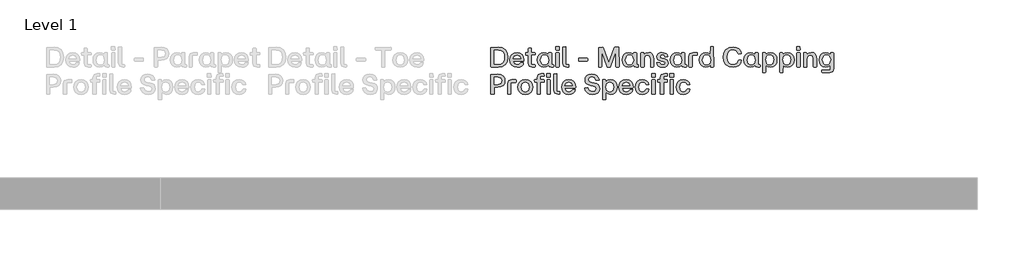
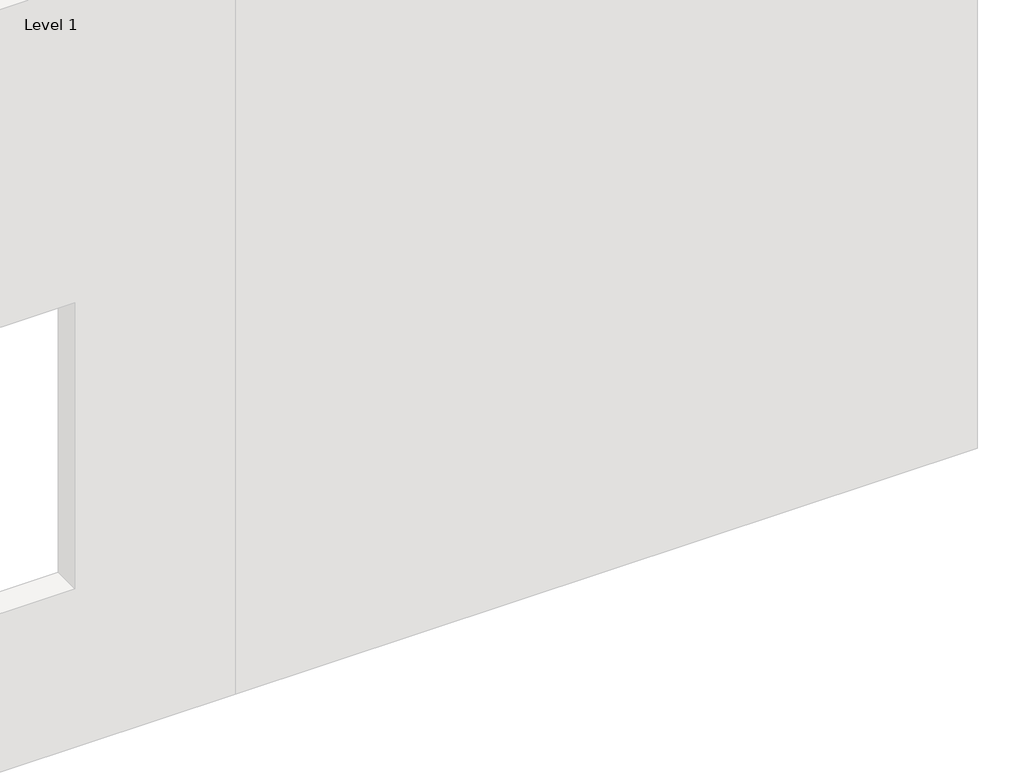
# One storey, part 47 of 64: 1 proxy.
"""IFC4 building model written with IfcOpenShell, lengths in millimetres."""

import ifcopenshell
import ifcopenshell.guid

model = None  # the IFC model being written
_history = None  # IfcOwnerHistory: only IFC2X3 demands one
_inside = {}  # id of a spatial element -> (the spatial element, [elements in it])
_under = {}  # id of a project, library or spatial element -> (it, [spatial elements below it])
_declared = {}  # id of a project -> (the project, [libraries it declares])
_typed = {}  # id of a type object -> (the type object, [elements of that type])
_made_of = {}  # id of a material, layer set ... -> (it, [elements and type objects made of it])


def new_model(schema):
    """Start an empty IFC model of exactly this schema.

    Asked for "IFC4X3", IfcOpenShell would pick the latest addendum, in which some entities
    have other attributes; the version numbers below select the first issue.
    IFC2X3 requires an IfcOwnerHistory on every rooted entity: one is made here for all.
    """
    global model, _history
    if schema == "IFC4X3":
        model = ifcopenshell.file(schema_version=(4, 3, 0, 0))
    else:
        model = ifcopenshell.file(schema=schema)
    _inside.clear()
    _under.clear()
    _declared.clear()
    _typed.clear()
    _made_of.clear()
    _history = None
    if model.schema == "IFC2X3":
        org = make("IfcOrganization", Name="unknown")
        user = make(
            "IfcPersonAndOrganization",
            ThePerson=make("IfcPerson", FamilyName="unknown"),
            TheOrganization=org,
        )
        app = make(
            "IfcApplication",
            ApplicationDeveloper=org,
            Version="unknown",
            ApplicationFullName="unknown",
            ApplicationIdentifier="unknown",
        )
        _history = make(
            "IfcOwnerHistory",
            OwningUser=user,
            OwningApplication=app,
            ChangeAction="ADDED",
            CreationDate=0,
        )
    return model


def make(cls, **values):
    """One entity of the class cls with the attributes given. An attribute that is None is left unset."""
    return model.create_entity(
        cls, **{name: value for name, value in values.items() if value is not None}
    )


def rooted(cls, **values):
    """An entity with a GlobalId (a new one), such as an element, a storey or a relation."""
    return make(cls, GlobalId=ifcopenshell.guid.new(), OwnerHistory=_history, **values)


def si_unit(unit_type, name, prefix=None):
    """IfcSIUnit, for example si_unit("LENGTHUNIT", "METRE", prefix="MILLI")."""
    return make("IfcSIUnit", UnitType=unit_type, Prefix=prefix, Name=name)


def assignment(units):
    """IfcUnitAssignment: the units of a project."""
    return None if units is None else make("IfcUnitAssignment", Units=units)


def point(xyz):
    """IfcCartesianPoint."""
    return None if xyz is None else make("IfcCartesianPoint", Coordinates=xyz)


def direction(xyz):
    """IfcDirection."""
    return None if xyz is None else make("IfcDirection", DirectionRatios=xyz)


def frame(location, z_axis=None, x_axis=None):
    """IfcAxis2Placement3D, a coordinate frame: its origin and axes. An axis left out is left unset."""
    return make(
        "IfcAxis2Placement3D",
        Location=point(location),
        Axis=direction(z_axis),
        RefDirection=direction(x_axis),
    )


def origin():
    """The frame at (0, 0, 0) with its axes left unset."""
    return frame((0.0, 0.0, 0.0))


def origin_with_axes():
    """The frame at (0, 0, 0) with the z axis (0, 0, 1) and the x axis (1, 0, 0) written out."""
    return frame((0.0, 0.0, 0.0), z_axis=(0.0, 0.0, 1.0), x_axis=(1.0, 0.0, 0.0))


def place(relative_to, where):
    """IfcLocalPlacement: puts the frame where relative to a parent placement (None: the world)."""
    return make(
        "IfcLocalPlacement", PlacementRelTo=relative_to, RelativePlacement=where
    )


def context(
    kind, dimensions, precision=None, world=None, true_north=None, identifier=None
):
    """IfcGeometricRepresentationContext, for example the 3D "Model" context."""
    return make(
        "IfcGeometricRepresentationContext",
        ContextIdentifier=identifier,
        ContextType=kind,
        CoordinateSpaceDimension=dimensions,
        Precision=precision,
        WorldCoordinateSystem=world,
        TrueNorth=true_north,
    )


def project(units=None, contexts=None):
    """IfcProject with its units and contexts."""
    return rooted(
        "IfcProject",
        Name="project",
        RepresentationContexts=contexts,
        UnitsInContext=assignment(units),
    )


def spatial(cls, under=None, at=None, **own):
    """A site, building, storey or space (cls), placed at a placement, below another one or the project."""
    s = rooted(cls, ObjectPlacement=at, **own)
    if under is not None:
        _under.setdefault(under.id(), (under, []))[1].append(s)
    return s


def polyline(points):
    """IfcPolyline through the points."""
    return make("IfcPolyline", Points=[point(p) for p in points])


def outline(outer, holes=None, kind="AREA"):
    """IfcArbitraryClosedProfileDef: a profile drawn as a closed curve; with holes, ...WithVoids."""
    if holes is None:
        return make("IfcArbitraryClosedProfileDef", ProfileType=kind, OuterCurve=outer)
    return make(
        "IfcArbitraryProfileDefWithVoids",
        ProfileType=kind,
        OuterCurve=outer,
        InnerCurves=holes,
    )


def extrude(swept, where, along, depth):
    """IfcExtrudedAreaSolid: the profile swept, set in the frame where, extruded along a direction by depth."""
    return make(
        "IfcExtrudedAreaSolid",
        SweptArea=swept,
        Position=where,
        ExtrudedDirection=direction(along),
        Depth=depth,
    )


def shape(context_of_items, identifier, shape_type, items):
    """IfcShapeRepresentation: the items that make up one representation, for example the "Body"."""
    return make(
        "IfcShapeRepresentation",
        ContextOfItems=context_of_items,
        RepresentationIdentifier=identifier,
        RepresentationType=shape_type,
        Items=items,
    )


def made_of(thing, what):
    """Note that an element or type object is made of a material, layer set ...; save() writes the relation."""
    if what is not None:
        _made_of.setdefault(what.id(), (what, []))[1].append(thing)
    return thing


def element(
    cls,
    number,
    at=None,
    inside=None,
    cuts=None,
    type_object=None,
    material=None,
    context=None,
    identifier="Body",
    shape_type=None,
    held_by="IfcProductDefinitionShape",
    body=None,
    shapes=None,
    **own,
):
    """One element of the class cls, such as IfcWall. Its Tag is "e" and its number.

    at: its placement. inside: the storey or other place that contains it. cuts: it is an
    opening in that element (IfcRelVoidsElement). A single representation is given by context,
    identifier, shape_type and body (its items); several are given by shapes. held_by: the class
    of the entity that holds the representations. save() writes the other relations.
    """
    e = rooted(cls, Tag="e%d" % number, ObjectPlacement=at, **own)
    if body is not None:
        shapes = [shape(context, identifier, shape_type, body)]
    if shapes is not None:
        e.Representation = make(held_by, Representations=shapes)
    if inside is not None:
        _inside.setdefault(inside.id(), (inside, []))[1].append(e)
    if cuts is not None:
        rooted(
            "IfcRelVoidsElement", RelatingBuildingElement=cuts, RelatedOpeningElement=e
        )
    if type_object is not None:
        _typed.setdefault(type_object.id(), (type_object, []))[1].append(e)
    return made_of(e, material)


def aggregate(whole, parts):
    """IfcRelAggregates: a whole, such as a stair, and the parts it consists of."""
    return rooted("IfcRelAggregates", RelatingObject=whole, RelatedObjects=parts)


def save(model, path):
    """Write the relations noted so far, then the file.

    IfcRelAggregates (storeys below a building ...), IfcRelContainedInSpatialStructure (elements
    in a storey), IfcRelDefinesByType, IfcRelAssociatesMaterial and IfcRelDeclares: one each for
    every whole, place, type object, material and project.
    """
    for whole, parts in _under.values():
        aggregate(whole, parts)
    for where, things in _inside.values():
        rooted(
            "IfcRelContainedInSpatialStructure",
            RelatedElements=things,
            RelatingStructure=where,
        )
    for kind, things in _typed.values():
        rooted("IfcRelDefinesByType", RelatedObjects=things, RelatingType=kind)
    for what, things in _made_of.values():
        rooted("IfcRelAssociatesMaterial", RelatedObjects=things, RelatingMaterial=what)
    for by, libraries in _declared.values():
        rooted("IfcRelDeclares", RelatingContext=by, RelatedDefinitions=libraries)
    model.write(path)


model = new_model("IFC4")

# Units and contexts
model_context = context("Model", 3, world=origin())
ifc_project = project(units=[si_unit("LENGTHUNIT", "METRE", prefix="MILLI")], contexts=[model_context])

# Site, building, storey
site = spatial("IfcSite", under=ifc_project)
building = spatial("IfcBuilding", under=site)
storey = spatial("IfcBuildingStorey", under=building, Name="Level 1", Elevation=0.0)

# Proxy
placement = place(None, origin())
element("IfcBuildingElementProxy", 1, Name="90mm", ObjectType="90mm", at=placement, inside=storey, context=model_context, shape_type="SweptSolid", body=[
    extrude(outline(polyline([(18110.2926176, -6500.0), (18108.9872124, -6498.7448027), (18108.9872124, -6411.3077612), (18142.5511873, -6410.002356), (18160.5475781, -6413.0054155), (18174.1193986, -6422.0145938), (18182.63905, -6436.3583606), (18185.4789338, -6455.3651852), (18182.648464, -6474.2025582), (18174.1570545, -6488.2890095), (18160.594648, -6497.0722524), (18142.5511873, -6500.0), (18110.2926176, -6500.0)]), holes=[polyline([(18123.7985402, -6487.3727155), (18141.6725492, -6487.3727155), (18153.8950326, -6485.311054), (18162.9481429, -6479.1260695), (18168.5494607, -6469.0625254), (18170.4165666, -6455.3651852), (18168.5431847, -6441.5109454), (18162.923039, -6431.1775339), (18153.8636527, -6424.7477859), (18141.6725492, -6422.6045366), (18123.7985402, -6422.6045366), (18123.7985402, -6487.3727155)])]), origin_with_axes(), (0.0, 0.0, 1.0), 20.0),
    extrude(outline(polyline([(18227.628458, -6500.7531184), (18214.0409476, -6498.4843493), (18203.5035666, -6491.6780421), (18196.7443293, -6481.0622112), (18194.4912502, -6467.3648711), (18196.7349153, -6453.5012173), (18203.4659107, -6442.7881086), (18213.9938777, -6435.9347315), (18227.628458, -6433.6502725), (18240.1584647, -6435.9033516), (18249.7324819, -6442.6625889), (18255.8044987, -6453.3129377), (18257.8285043, -6467.2393514), (18257.8285043, -6470.6785919), (18256.573307, -6472.009101), (18209.1268503, -6472.009101), (18214.6497183, -6484.6865934), (18227.628458, -6489.2053035), (18238.0465953, -6486.9082925), (18243.4439436, -6480.4691305), (18244.8246606, -6479.4147648), (18256.1967478, -6479.4147648), (18254.1633282, -6488.7314665), (18247.8120301, -6495.1925945), (18238.8248176, -6499.3629874), (18227.628458, -6500.7531184)]), holes=[polyline([(18209.2523701, -6461.5909637), (18243.8205028, -6461.5909637), (18239.0633051, -6449.6289337), (18227.628458, -6445.2733992), (18214.8631018, -6449.4155502), (18209.2523701, -6461.5909637)])]), origin_with_axes(), (0.0, 0.0, 1.0), 20.0),
    extrude(outline(polyline([(18296.6140998, -6500.0), (18282.731618, -6495.2302504), (18277.9618684, -6481.3477686), (18277.9618684, -6445.7754781), (18266.7906127, -6445.7754781), (18265.4852076, -6435.7339), (18266.7906127, -6434.4787027), (18277.9618684, -6434.4787027), (18277.9618684, -6416.45407), (18279.2170657, -6415.1486648), (18290.9657121, -6415.1486648), (18292.2209094, -6416.45407), (18292.2209094, -6434.4787027), (18308.0363949, -6434.4787027), (18309.3418001, -6435.7339), (18309.3418001, -6444.444969), (18292.2209094, -6445.7754781), (18292.2209094, -6488.7032246), (18308.0363949, -6488.7032246), (18309.3418001, -6489.9584219), (18309.3418001, -6498.7448027), (18308.0363949, -6500.0), (18296.6140998, -6500.0)])), origin_with_axes(), (0.0, 0.0, 1.0), 20.0),
    extrude(outline(polyline([(18347.2738615, -6500.7531184), (18335.3243835, -6498.4843493), (18326.0861316, -6491.6780421), (18320.1741525, -6481.0622112), (18318.2034928, -6467.3648711), (18320.1741525, -6453.5325972), (18326.0861316, -6442.8132125), (18335.3243835, -6435.9410075), (18347.2738615, -6433.6502725), (18359.1856835, -6436.5372262), (18368.160344, -6444.444969), (18368.7377347, -6435.7339), (18369.992932, -6434.4787027), (18381.6662665, -6434.4787027), (18382.9716717, -6435.7339), (18382.9716717, -6488.7032246), (18390.0760882, -6488.7032246), (18391.3312855, -6489.9584219), (18391.3312855, -6498.7448027), (18390.0760882, -6500.0), (18380.536589, -6500.0), (18372.1581473, -6497.6465051), (18369.3653333, -6490.5860205), (18359.7254183, -6497.8661646), (18347.2738615, -6500.7531184)]), holes=[polyline([(18332.7135732, -6467.3648711), (18337.6716024, -6483.3686362), (18343.5365116, -6487.7461367), (18351.2151809, -6489.2053035), (18358.7714684, -6487.7524127), (18364.470064, -6483.3937402), (18369.2398136, -6467.3648711), (18364.4324081, -6451.1728263), (18358.7243985, -6446.748256), (18351.2151809, -6445.2733992), (18343.5365116, -6446.748256), (18337.6716024, -6451.1728263), (18332.7135732, -6467.3648711)])]), origin_with_axes(), (0.0, 0.0, 1.0), 20.0),
    extrude(outline(polyline([(18403.6824266, -6500.0), (18402.3770214, -6498.7448027), (18402.3770214, -6435.7339), (18403.6824266, -6434.4787027), (18415.3557612, -6434.4787027), (18416.6109584, -6435.7339), (18416.6109584, -6498.7448027), (18415.3557612, -6500.0), (18403.6824266, -6500.0)])), origin_with_axes(), (0.0, 0.0, 1.0), 20.0),
    extrude(outline(polyline([(18401.3728636, -6421.8514182), (18401.3728636, -6407.9940404), (18402.6280609, -6406.6635313), (18416.4854387, -6406.6635313), (18417.8159478, -6421.8514182), (18416.4854387, -6423.1066155), (18402.6280609, -6423.1066155), (18401.3728636, -6421.8514182)])), origin_with_axes(), (0.0, 0.0, 1.0), 20.0),
    extrude(outline(polyline([(18451.5305464, -6500.0), (18437.6731686, -6495.2302504), (18432.903419, -6481.3477686), (18432.903419, -6408.7471587), (18445.8821587, -6407.4166496), (18447.137356, -6408.7471587), (18447.137356, -6488.7032246), (18459.1370418, -6488.7032246), (18460.3922391, -6489.9584219), (18460.3922391, -6498.7448027), (18459.1370418, -6500.0), (18451.5305464, -6500.0)])), origin_with_axes(), (0.0, 0.0, 1.0), 20.0),
    extrude(outline(polyline([(18505.1776775, -6472.887739), (18503.9224803, -6471.5572299), (18503.9224803, -6461.5909637), (18505.1776775, -6460.2604546), (18543.7875455, -6460.2604546), (18545.0427427, -6461.5909637), (18545.0427427, -6471.5572299), (18543.7875455, -6472.887739), (18505.1776775, -6472.887739)])), origin_with_axes(), (0.0, 0.0, 1.0), 20.0),
    extrude(outline(polyline([(18595.5016728, -6500.0), (18594.1962677, -6498.7448027), (18594.1962677, -6411.3077612), (18613.777345, -6410.002356), (18615.2835817, -6411.0567217), (18640.0611758, -6480.4691305), (18665.0396014, -6411.0567217), (18666.5458381, -6410.002356), (18685.0725498, -6410.002356), (18686.3779549, -6498.7448027), (18685.0725498, -6500.0), (18673.1481757, -6500.0), (18671.8176666, -6498.7448027), (18671.8176666, -6430.211032), (18647.4166318, -6498.9958422), (18645.910395, -6500.0), (18634.4127881, -6500.0), (18632.9065514, -6498.9958422), (18609.0075954, -6430.211032), (18608.5055165, -6498.7448027), (18607.1750074, -6500.0), (18595.5016728, -6500.0)])), origin_with_axes(), (0.0, 0.0, 1.0), 20.0),
    extrude(outline(polyline([(18729.6571566, -6500.7531184), (18717.7076787, -6498.4843493), (18708.4694268, -6491.6780421), (18702.5574477, -6481.0622112), (18700.586788, -6467.3648711), (18702.5574477, -6453.5325972), (18708.4694268, -6442.8132125), (18717.7076787, -6435.9410075), (18729.6571566, -6433.6502725), (18741.5689787, -6436.5372262), (18750.5436392, -6444.444969), (18751.1210299, -6435.7339), (18752.3762272, -6434.4787027), (18764.0495617, -6434.4787027), (18765.3549669, -6435.7339), (18765.3549669, -6488.7032246), (18772.4593834, -6488.7032246), (18773.7145807, -6489.9584219), (18773.7145807, -6498.7448027), (18772.4593834, -6500.0), (18762.9198842, -6500.0), (18754.5414425, -6497.6465051), (18751.7486285, -6490.5860205), (18742.1087135, -6497.8661646), (18729.6571566, -6500.7531184)]), holes=[polyline([(18715.0968684, -6467.3648711), (18720.0548976, -6483.3686362), (18725.9198068, -6487.7461367), (18733.5984761, -6489.2053035), (18741.1547636, -6487.7524127), (18746.8533592, -6483.3937402), (18751.6231088, -6467.3648711), (18746.8157033, -6451.1728263), (18741.1076937, -6446.748256), (18733.5984761, -6445.2733992), (18725.9198068, -6446.748256), (18720.0548976, -6451.1728263), (18715.0968684, -6467.3648711)])]), origin_with_axes(), (0.0, 0.0, 1.0), 20.0),
    extrude(outline(polyline([(18786.0657218, -6500.0), (18784.7603166, -6498.7448027), (18784.7603166, -6435.7339), (18786.0657218, -6434.4787027), (18797.1114577, -6434.4787027), (18798.366655, -6435.7339), (18798.366655, -6444.444969), (18807.6613908, -6436.3489466), (18819.5794888, -6433.6502725), (18829.5049612, -6435.5330684), (18836.7882433, -6441.1814561), (18841.2598836, -6450.4573639), (18842.7504303, -6463.2227201), (18842.7504303, -6498.7448027), (18841.4199212, -6500.0), (18829.7465867, -6500.0), (18828.4411815, -6498.7448027), (18828.4411815, -6463.2227201), (18824.9266292, -6449.942733), (18813.8181334, -6445.7754781), (18802.6092218, -6450.0054929), (18798.9942536, -6463.2227201), (18798.9942536, -6498.7448027), (18797.7390564, -6500.0), (18786.0657218, -6500.0)])), origin_with_axes(), (0.0, 0.0, 1.0), 20.0),
    extrude(outline(polyline([(18882.9418468, -6500.7531184), (18871.9996646, -6499.4257473), (18863.6243609, -6495.4436339), (18858.066975, -6488.982506), (18855.5785464, -6480.2180911), (18856.7082239, -6478.7871662), (18868.0803112, -6478.7871662), (18869.3355084, -6479.9670516), (18873.6282831, -6487.4480273), (18882.9418468, -6489.7073824), (18890.9751093, -6487.5735471), (18893.9875827, -6481.8498475), (18891.8286434, -6476.7035387), (18884.5233954, -6474.0174166), (18875.3604553, -6472.3856601), (18861.4528696, -6466.009258), (18856.9592634, -6453.2313499), (18858.6067098, -6445.2137773), (18863.549049, -6438.9848609), (18871.2842022, -6434.9839196), (18881.3100904, -6433.6502725), (18898.7573324, -6438.6083017), (18903.9224691, -6444.6050066), (18906.3638278, -6452.6790631), (18893.862063, -6454.1099879), (18892.481346, -6452.9301025), (18888.9165858, -6446.6164603), (18881.3100904, -6444.6960084), (18873.653387, -6446.6792201), (18871.0174728, -6452.4280236), (18872.9002687, -6457.4111568), (18879.7536457, -6460.1349348), (18889.5441844, -6461.9675228), (18903.966401, -6468.2435092), (18908.0457921, -6481.0967292), (18906.4140357, -6489.4845849), (18901.5187663, -6495.6695694), (18893.6110236, -6499.4822311), (18882.9418468, -6500.7531184)])), origin_with_axes(), (0.0, 0.0, 1.0), 20.0),
    extrude(outline(polyline([(18946.5552443, -6500.7531184), (18934.6057663, -6498.4843493), (18925.3675144, -6491.6780421), (18919.4555353, -6481.0622112), (18917.4848756, -6467.3648711), (18919.4555353, -6453.5325972), (18925.3675144, -6442.8132125), (18934.6057663, -6435.9410075), (18946.5552443, -6433.6502725), (18958.4670663, -6436.5372262), (18967.4417268, -6444.444969), (18968.0191175, -6435.7339), (18969.2743148, -6434.4787027), (18980.9476494, -6434.4787027), (18982.2530545, -6435.7339), (18982.2530545, -6488.7032246), (18989.357471, -6488.7032246), (18990.6126683, -6489.9584219), (18990.6126683, -6498.7448027), (18989.357471, -6500.0), (18979.8179718, -6500.0), (18971.4395301, -6497.6465051), (18968.6467161, -6490.5860205), (18959.0068011, -6497.8661646), (18946.5552443, -6500.7531184)]), holes=[polyline([(18931.994956, -6467.3648711), (18936.9529852, -6483.3686362), (18942.8178944, -6487.7461367), (18950.4965637, -6489.2053035), (18958.0528512, -6487.7524127), (18963.7514468, -6483.3937402), (18968.5211964, -6467.3648711), (18963.7137909, -6451.1728263), (18958.0057813, -6446.748256), (18950.4965637, -6445.2733992), (18942.8178944, -6446.748256), (18936.9529852, -6451.1728263), (18931.994956, -6467.3648711)])]), origin_with_axes(), (0.0, 0.0, 1.0), 20.0),
    extrude(outline(polyline([(19002.2860029, -6500.0), (19001.0308056, -6498.7448027), (19001.0308056, -6453.0556222), (19005.8005552, -6439.2107964), (19019.657933, -6434.4787027), (19037.9336052, -6434.4787027), (19039.1888025, -6435.7339), (19039.1888025, -6445.2733992), (19037.9336052, -6446.5285965), (19015.2647426, -6446.5285965), (19015.2647426, -6498.7448027), (19014.0095453, -6500.0), (19002.2860029, -6500.0)])), origin_with_axes(), (0.0, 0.0, 1.0), 20.0),
    extrude(outline(polyline([(19076.6940968, -6500.7531184), (19064.7446189, -6498.4843493), (19055.506367, -6491.6780421), (19049.5943878, -6481.0622112), (19047.6237281, -6467.3648711), (19049.5943878, -6453.5325972), (19055.506367, -6442.8132125), (19064.7446189, -6435.9410075), (19076.6940968, -6433.6502725), (19088.6059189, -6436.5372262), (19097.5805793, -6444.444969), (19098.1579701, -6408.7471587), (19099.4131673, -6407.4166496), (19111.0865019, -6407.4166496), (19112.3919071, -6498.7448027), (19111.0865019, -6500.0), (19100.040766, -6500.0), (19098.7855687, -6498.7448027), (19098.7855687, -6490.0839416), (19089.1456537, -6497.8661646), (19076.6940968, -6500.7531184)]), holes=[polyline([(19062.1338085, -6467.3648711), (19067.0918377, -6483.3686362), (19072.956747, -6487.7461367), (19080.6354162, -6489.2053035), (19088.1917038, -6487.7524127), (19093.8902994, -6483.3937402), (19098.660049, -6467.3648711), (19093.8526435, -6451.1728263), (19088.1446339, -6446.748256), (19080.6354162, -6445.2733992), (19072.956747, -6446.748256), (19067.0918377, -6451.1728263), (19062.1338085, -6467.3648711)])]), origin_with_axes(), (0.0, 0.0, 1.0), 20.0),
    extrude(outline(polyline([(19199.5779092, -6500.7531184), (19181.5658284, -6497.6684711), (19167.6958986, -6488.4145292), (19158.8467579, -6473.8887589), (19155.8970443, -6454.988626), (19158.8718618, -6436.4054305), (19167.7963144, -6421.8263143), (19181.6913481, -6412.3935068), (19199.5779092, -6409.2492376), (19213.5262888, -6411.3265891), (19225.0960696, -6417.5586436), (19233.4148895, -6427.2424905), (19237.6103864, -6439.6752194), (19224.4308151, -6441.1312482), (19222.9998902, -6440.0015707), (19215.1360793, -6426.3889563), (19199.5779092, -6421.8514182), (19187.6535352, -6424.0731174), (19178.5910109, -6430.7382148), (19172.8673114, -6441.244216), (19170.9594115, -6454.988626), (19172.8578974, -6468.9464196), (19178.553355, -6479.4398688), (19187.6064653, -6486.0108265), (19199.5779092, -6488.2011457), (19215.4436026, -6483.7263674), (19223.8785283, -6470.3020327), (19225.3094532, -6469.1221472), (19237.2338272, -6469.1221472), (19234.0613161, -6482.8791093), (19225.5981485, -6492.4688164), (19213.8400881, -6498.6820429), (19199.5779092, -6500.7531184)])), origin_with_axes(), (0.0, 0.0, 1.0), 20.0),
    extrude(outline(polyline([(19277.5256594, -6500.7531184), (19265.5761815, -6498.4843493), (19256.3379296, -6491.6780421), (19250.4259504, -6481.0622112), (19248.4552907, -6467.3648711), (19250.4259504, -6453.5325972), (19256.3379296, -6442.8132125), (19265.5761815, -6435.9410075), (19277.5256594, -6433.6502725), (19289.4374815, -6436.5372262), (19298.4121419, -6444.444969), (19298.9895327, -6435.7339), (19300.2447299, -6434.4787027), (19311.9180645, -6434.4787027), (19313.2234697, -6435.7339), (19313.2234697, -6488.7032246), (19320.3278862, -6488.7032246), (19321.5830835, -6489.9584219), (19321.5830835, -6498.7448027), (19320.3278862, -6500.0), (19310.788387, -6500.0), (19302.4099452, -6497.6465051), (19299.6171313, -6490.5860205), (19289.9772163, -6497.8661646), (19277.5256594, -6500.7531184)]), holes=[polyline([(19262.9653711, -6467.3648711), (19267.9234003, -6483.3686362), (19273.7883096, -6487.7461367), (19281.4669788, -6489.2053035), (19289.0232664, -6487.7524127), (19294.721862, -6483.3937402), (19299.4916116, -6467.3648711), (19294.6842061, -6451.1728263), (19288.9761965, -6446.748256), (19281.4669788, -6445.2733992), (19273.7883096, -6446.748256), (19267.9234003, -6451.1728263), (19262.9653711, -6467.3648711)])]), origin_with_axes(), (0.0, 0.0, 1.0), 20.0),
    extrude(outline(polyline([(19333.9342246, -6524.4010349), (19332.6288194, -6523.1458376), (19332.6288194, -6435.7339), (19333.9342246, -6434.4787027), (19344.9799605, -6434.4787027), (19346.2351578, -6435.7339), (19346.2351578, -6444.3194493), (19355.8750728, -6436.5372262), (19368.3266297, -6433.6502725), (19380.2761076, -6435.9253176), (19389.5143595, -6442.7504527), (19395.4263386, -6453.3913875), (19397.3969984, -6467.1138316), (19395.4263386, -6480.9210016), (19389.5143595, -6491.6152823), (19380.2761076, -6498.4686593), (19368.3266297, -6500.7531184), (19356.4148076, -6497.8661646), (19347.4401472, -6489.9584219), (19346.8627564, -6523.1458376), (19345.6075591, -6524.4010349), (19333.9342246, -6524.4010349)]), holes=[polyline([(19346.3606775, -6467.1138316), (19351.168083, -6483.3058764), (19356.8760926, -6487.7304467), (19364.3853103, -6489.2053035), (19372.0639795, -6487.7304467), (19377.9288888, -6483.3058764), (19382.886918, -6467.1138316), (19377.9288888, -6451.1100665), (19372.0639795, -6446.732566), (19364.3853103, -6445.2733992), (19356.8290227, -6446.723152), (19351.1304271, -6451.0724106), (19346.3606775, -6467.1138316)])]), origin_with_axes(), (0.0, 0.0, 1.0), 20.0),
    extrude(outline(polyline([(19411.0535446, -6524.4010349), (19409.7481395, -6523.1458376), (19409.7481395, -6435.7339), (19411.0535446, -6434.4787027), (19422.0992806, -6434.4787027), (19423.3544778, -6435.7339), (19423.3544778, -6444.3194493), (19432.9943928, -6436.5372262), (19445.4459497, -6433.6502725), (19457.3954277, -6435.9253176), (19466.6336796, -6442.7504527), (19472.5456587, -6453.3913875), (19474.5163184, -6467.1138316), (19472.5456587, -6480.9210016), (19466.6336796, -6491.6152823), (19457.3954277, -6498.4686593), (19445.4459497, -6500.7531184), (19433.5341277, -6497.8661646), (19424.5594672, -6489.9584219), (19423.9820765, -6523.1458376), (19422.7268792, -6524.4010349), (19411.0535446, -6524.4010349)]), holes=[polyline([(19423.4799975, -6467.1138316), (19428.2874031, -6483.3058764), (19433.9954126, -6487.7304467), (19441.5046303, -6489.2053035), (19449.1832996, -6487.7304467), (19455.0482088, -6483.3058764), (19460.006238, -6467.1138316), (19455.0482088, -6451.1100665), (19449.1832996, -6446.732566), (19441.5046303, -6445.2733992), (19433.9483427, -6446.723152), (19428.2497472, -6451.0724106), (19423.4799975, -6467.1138316)])]), origin_with_axes(), (0.0, 0.0, 1.0), 20.0),
    extrude(outline(polyline([(19488.1728647, -6500.0), (19486.8674595, -6498.7448027), (19486.8674595, -6435.7339), (19488.1728647, -6434.4787027), (19499.8461992, -6434.4787027), (19501.1013965, -6435.7339), (19501.1013965, -6498.7448027), (19499.8461992, -6500.0), (19488.1728647, -6500.0)])), origin_with_axes(), (0.0, 0.0, 1.0), 20.0),
    extrude(outline(polyline([(19485.8633017, -6421.8514182), (19485.8633017, -6407.9940404), (19487.1184989, -6406.6635313), (19500.9758768, -6406.6635313), (19502.3063859, -6421.8514182), (19500.9758768, -6423.1066155), (19487.1184989, -6423.1066155), (19485.8633017, -6421.8514182)])), origin_with_axes(), (0.0, 0.0, 1.0), 20.0),
    extrude(outline(polyline([(19518.6992622, -6500.0), (19517.393857, -6498.7448027), (19517.393857, -6435.7339), (19518.6992622, -6434.4787027), (19529.7449981, -6434.4787027), (19531.0001954, -6435.7339), (19531.0001954, -6444.444969), (19540.2949311, -6436.3489466), (19552.2130292, -6433.6502725), (19562.1385016, -6435.5330684), (19569.4217837, -6441.1814561), (19573.893424, -6450.4573639), (19575.3839707, -6463.2227201), (19575.3839707, -6498.7448027), (19574.0534616, -6500.0), (19562.380127, -6500.0), (19561.0747219, -6498.7448027), (19561.0747219, -6463.2227201), (19557.5601695, -6449.942733), (19546.4516737, -6445.7754781), (19535.2427621, -6450.0054929), (19531.627794, -6463.2227201), (19531.627794, -6498.7448027), (19530.3725967, -6500.0), (19518.6992622, -6500.0)])), origin_with_axes(), (0.0, 0.0, 1.0), 20.0),
    extrude(outline(polyline([(19601.0904107, -6524.4010349), (19599.7599016, -6523.1458376), (19599.7599016, -6514.3594567), (19601.0904107, -6513.1042595), (19637.9932104, -6513.1042595), (19637.9932104, -6489.9584219), (19628.4411592, -6497.8661646), (19616.5293371, -6500.7531184), (19604.5798591, -6498.4686593), (19595.3416072, -6491.6152823), (19589.4296281, -6480.9210016), (19587.4589684, -6467.1138316), (19589.4296281, -6453.3913875), (19595.3416072, -6442.7504527), (19604.5798591, -6435.9253176), (19616.5293371, -6433.6502725), (19628.980894, -6436.5372262), (19638.1187301, -6444.3194493), (19638.620809, -6435.7339), (19639.8760063, -6434.4787027), (19650.9217422, -6434.4787027), (19652.2271474, -6435.7339), (19652.2271474, -6506.4015061), (19647.5829175, -6519.7944609), (19634.2276186, -6524.4010349), (19601.0904107, -6524.4010349)]), holes=[polyline([(19601.9690488, -6467.1138316), (19606.927078, -6483.3058764), (19612.7919872, -6487.7304467), (19620.4706565, -6489.2053035), (19627.9798742, -6487.7304467), (19633.6878837, -6483.3058764), (19638.4952893, -6467.1138316), (19633.7255396, -6451.0724106), (19628.0269441, -6446.723152), (19620.4706565, -6445.2733992), (19612.7919872, -6446.732566), (19606.927078, -6451.1100665), (19601.9690488, -6467.1138316)])]), origin_with_axes(), (0.0, 0.0, 1.0), 20.0),
    extrude(outline(polyline([(18110.2926176, -6622.13305), (18108.9872124, -6620.8778528), (18108.9872124, -6533.4408112), (18140.1161046, -6532.135406), (18154.0174144, -6534.0338919), (18164.3414119, -6539.7293495), (18170.7429179, -6548.9236695), (18172.8767533, -6561.3187425), (18170.7429179, -6573.7138155), (18164.3414119, -6582.9081354), (18154.0174144, -6588.603593), (18140.1161046, -6590.5020789), (18123.7985402, -6590.5020789), (18123.7985402, -6620.8778528), (18122.4680311, -6622.13305), (18110.2926176, -6622.13305)]), holes=[polyline([(18123.7985402, -6577.8747944), (18140.1161046, -6577.8747944), (18153.5969233, -6573.7954033), (18157.9901137, -6561.3061905), (18153.5969233, -6548.8169777), (18140.1161046, -6544.7375866), (18123.7985402, -6544.7375866), (18123.7985402, -6577.8747944)])]), origin_with_axes(), (0.0, 0.0, 1.0), 20.0),
    extrude(outline(polyline([(18186.1065325, -6622.13305), (18184.8513352, -6620.8778528), (18184.8513352, -6575.1886723), (18189.6210848, -6561.3438464), (18203.4784626, -6556.6117527), (18221.7541348, -6556.6117527), (18223.0093321, -6557.86695), (18223.0093321, -6567.4064492), (18221.7541348, -6568.6616465), (18199.0852722, -6568.6616465), (18199.0852722, -6620.8778528), (18197.8300749, -6622.13305), (18186.1065325, -6622.13305)])), origin_with_axes(), (0.0, 0.0, 1.0), 20.0),
    extrude(outline(polyline([(18264.2049064, -6622.8861684), (18250.9782652, -6620.5797434), (18240.519334, -6613.6604685), (18233.7130268, -6603.0069817), (18231.4442577, -6589.4979211), (18233.7193028, -6575.9009967), (18240.5444379, -6565.1345422), (18251.0096451, -6558.1211274), (18264.2049064, -6555.7833225), (18277.5570673, -6558.1211274), (18288.0913103, -6565.1345422), (18294.9352734, -6575.9009967), (18297.2165945, -6589.4979211), (18294.9352734, -6603.0069817), (18288.0913103, -6613.6604685), (18277.5570673, -6620.5797434), (18264.2049064, -6622.8861684)]), holes=[polyline([(18245.9543381, -6589.4979211), (18250.8119515, -6605.5267902), (18256.588997, -6609.8854627), (18264.2049064, -6611.3383535), (18271.9024036, -6609.8791867), (18277.7735888, -6605.5016862), (18282.731618, -6589.4979211), (18277.7986928, -6573.3058764), (18271.9337835, -6568.881306), (18264.2049064, -6567.4064492), (18256.588997, -6568.881306), (18250.8119515, -6573.3058764), (18245.9543381, -6589.4979211)])]), origin_with_axes(), (0.0, 0.0, 1.0), 20.0),
    extrude(outline(polyline([(18319.3833782, -6622.13305), (18318.1281809, -6620.8778528), (18318.1281809, -6567.9085281), (18306.9569253, -6567.9085281), (18305.6515201, -6557.86695), (18306.9569253, -6556.6117527), (18318.1281809, -6556.6117527), (18318.1281809, -6548.201931), (18322.8979305, -6534.3194493), (18336.7804123, -6529.5496997), (18348.2027074, -6529.5496997), (18349.5081126, -6539.5912778), (18332.3872219, -6540.9217869), (18332.3872219, -6556.6117527), (18348.2027074, -6556.6117527), (18349.5081126, -6557.86695), (18349.5081126, -6566.578019), (18332.3872219, -6567.9085281), (18332.3872219, -6620.8778528), (18331.1320246, -6622.13305), (18319.3833782, -6622.13305)])), origin_with_axes(), (0.0, 0.0, 1.0), 20.0),
    extrude(outline(polyline([(18361.3069669, -6543.9844682), (18361.3069669, -6530.1270904), (18362.5621642, -6528.7965813), (18376.4948538, -6528.7965813), (18377.7500511, -6530.1270904), (18377.7500511, -6543.9844682), (18376.4948538, -6545.2396655), (18362.5621642, -6545.2396655), (18361.3069669, -6543.9844682)])), origin_with_axes(), (0.0, 0.0, 1.0), 20.0),
    extrude(outline(polyline([(18362.3111247, -6620.8778528), (18362.3111247, -6557.86695), (18363.6416338, -6556.6117527), (18375.3149684, -6556.6117527), (18376.6203735, -6557.86695), (18376.6203735, -6620.8778528), (18375.3149684, -6622.13305), (18363.6416338, -6622.13305), (18362.3111247, -6620.8778528)])), origin_with_axes(), (0.0, 0.0, 1.0), 20.0),
    extrude(outline(polyline([(18411.3642339, -6622.13305), (18397.506856, -6617.3633004), (18392.7371064, -6603.4808186), (18392.7371064, -6530.8802088), (18405.7158462, -6529.5496997), (18406.9710434, -6530.8802088), (18406.9710434, -6610.8362746), (18418.9707293, -6610.8362746), (18420.2259266, -6612.0914719), (18420.2259266, -6620.8778528), (18418.9707293, -6622.13305), (18411.3642339, -6622.13305)])), origin_with_axes(), (0.0, 0.0, 1.0), 20.0),
    extrude(outline(polyline([(18460.5930707, -6622.8861684), (18447.0055602, -6620.6173993), (18436.4681792, -6613.8110921), (18429.7089419, -6603.1952613), (18427.4558628, -6589.4979211), (18429.6995279, -6575.6342673), (18436.4305233, -6564.9211586), (18446.9584903, -6558.0677815), (18460.5930707, -6555.7833225), (18473.1230774, -6558.0364016), (18482.6970945, -6564.7956389), (18488.7691113, -6575.4459877), (18490.7931169, -6589.3724014), (18490.7931169, -6592.8116419), (18489.5379196, -6594.142151), (18442.0914629, -6594.142151), (18447.6143309, -6606.8196434), (18460.5930707, -6611.3383535), (18471.011208, -6609.0413425), (18476.4085562, -6602.6021806), (18477.7892732, -6601.5478148), (18489.1613604, -6601.5478148), (18487.1279409, -6610.8645166), (18480.7766427, -6617.3256445), (18471.7894303, -6621.4960374), (18460.5930707, -6622.8861684)]), holes=[polyline([(18442.2169827, -6583.7240137), (18476.7851154, -6583.7240137), (18472.0279177, -6571.7619837), (18460.5930707, -6567.4064492), (18447.8277145, -6571.5486002), (18442.2169827, -6583.7240137)])]), origin_with_axes(), (0.0, 0.0, 1.0), 20.0),
    extrude(outline(polyline([(18566.8831752, -6622.8861684), (18553.1136611, -6621.0347524), (18542.4319324, -6615.4805045), (18535.1706162, -6606.5058441), (18531.6623399, -6594.3931904), (18544.917223, -6592.9371616), (18546.2226282, -6594.142151), (18552.4107507, -6606.6941236), (18566.8831752, -6610.5852352), (18579.3974919, -6607.007923), (18583.8785461, -6597.0793126), (18580.7782089, -6588.8326665), (18570.3977275, -6584.7281715), (18558.5235614, -6582.644544), (18547.5186193, -6579.3904451), (18539.6579465, -6574.0715467), (18534.9415427, -6566.6878488), (18533.3694082, -6557.2393514), (18535.3839998, -6546.397585), (18541.4277746, -6538.2231128), (18551.0802416, -6533.0924939), (18563.9209096, -6531.3822877), (18576.6548859, -6533.1144599), (18586.5897722, -6538.3109766), (18593.3803895, -6546.6643144), (18596.6815583, -6557.86695), (18583.501987, -6559.2978749), (18582.0710621, -6557.86695), (18576.2594987, -6547.1601173), (18563.9209096, -6543.7334288), (18552.1597112, -6546.8714219), (18548.1054241, -6556.034362), (18551.7203922, -6564.732879), (18563.0422715, -6569.2892451), (18574.8411258, -6571.3477686), (18585.6609263, -6574.5171417), (18593.0163822, -6579.6069666), (18597.2338451, -6586.9373187), (18598.639666, -6596.8282731), (18596.5277966, -6607.7422134), (18590.1921884, -6615.9825834), (18580.1411963, -6621.1602721), (18566.8831752, -6622.8861684)])), origin_with_axes(), (0.0, 0.0, 1.0), 20.0),
    extrude(outline(polyline([(18614.1539042, -6646.5340849), (18612.848499, -6645.2788876), (18612.848499, -6557.86695), (18614.1539042, -6556.6117527), (18625.1996401, -6556.6117527), (18626.4548374, -6557.86695), (18626.4548374, -6566.4524993), (18636.0947524, -6558.6702762), (18648.5463093, -6555.7833225), (18660.4957873, -6558.0583676), (18669.7340392, -6564.8835027), (18675.6460183, -6575.5244375), (18677.616678, -6589.2468816), (18675.6460183, -6603.0540516), (18669.7340392, -6613.7483323), (18660.4957873, -6620.6017094), (18648.5463093, -6622.8861684), (18636.6344872, -6619.9992147), (18627.6598268, -6612.0914719), (18627.082436, -6645.2788876), (18625.8272388, -6646.5340849), (18614.1539042, -6646.5340849)]), holes=[polyline([(18626.5803571, -6589.2468816), (18631.3877627, -6605.4389264), (18637.0957722, -6609.8634967), (18644.6049899, -6611.3383535), (18652.2836592, -6609.8634967), (18658.1485684, -6605.4389264), (18663.1065976, -6589.2468816), (18658.1485684, -6573.2431165), (18652.2836592, -6568.865616), (18644.6049899, -6567.4064492), (18637.0487023, -6568.856202), (18631.3501068, -6573.2054606), (18626.5803571, -6589.2468816)])]), origin_with_axes(), (0.0, 0.0, 1.0), 20.0),
    extrude(outline(polyline([(18719.2641233, -6622.8861684), (18705.6766129, -6620.6173993), (18695.1392318, -6613.8110921), (18688.3799945, -6603.1952613), (18686.1269155, -6589.4979211), (18688.3705806, -6575.6342673), (18695.1015759, -6564.9211586), (18705.629543, -6558.0677815), (18719.2641233, -6555.7833225), (18731.79413, -6558.0364016), (18741.3681471, -6564.7956389), (18747.4401639, -6575.4459877), (18749.4641695, -6589.3724014), (18749.4641695, -6592.8116419), (18748.2089722, -6594.142151), (18700.7625156, -6594.142151), (18706.2853836, -6606.8196434), (18719.2641233, -6611.3383535), (18729.6822606, -6609.0413425), (18735.0796088, -6602.6021806), (18736.4603258, -6601.5478148), (18747.8324131, -6601.5478148), (18745.7989935, -6610.8645166), (18739.4476953, -6617.3256445), (18730.4604829, -6621.4960374), (18719.2641233, -6622.8861684)]), holes=[polyline([(18700.8880353, -6583.7240137), (18735.456168, -6583.7240137), (18730.6989704, -6571.7619837), (18719.2641233, -6567.4064492), (18706.4987671, -6571.5486002), (18700.8880353, -6583.7240137)])]), origin_with_axes(), (0.0, 0.0, 1.0), 20.0),
    extrude(outline(polyline([(18791.4379661, -6622.8861684), (18777.9445955, -6620.6173993), (18767.4385944, -6613.8110921), (18760.6793571, -6603.1952613), (18758.426278, -6589.4979211), (18760.710737, -6575.9009967), (18767.5641141, -6565.1345422), (18778.1014951, -6558.1211274), (18791.4379661, -6555.7833225), (18802.4209422, -6557.3303532), (18811.3704987, -6561.971445), (18817.6841409, -6569.1543114), (18820.7593742, -6578.3266654), (18808.1320897, -6579.7073824), (18801.7054797, -6570.1678832), (18791.4379661, -6567.4064492), (18783.680847, -6568.881306), (18777.8316277, -6573.3058764), (18772.9363584, -6589.4979211), (18777.8567317, -6605.5644461), (18783.7122269, -6609.8948767), (18791.4379661, -6611.3383535), (18802.019279, -6608.7024393), (18807.3789714, -6600.1670979), (18808.7596884, -6598.9621085), (18820.1317756, -6598.9621085), (18818.12346, -6609.4712476), (18811.7470579, -6616.6980459), (18802.7033616, -6621.3391377), (18791.4379661, -6622.8861684)])), origin_with_axes(), (0.0, 0.0, 1.0), 20.0),
    extrude(outline(polyline([(18835.8719493, -6622.13305), (18834.5665442, -6620.8778528), (18834.5665442, -6557.86695), (18835.8719493, -6556.6117527), (18847.5452839, -6556.6117527), (18848.8004812, -6557.86695), (18848.8004812, -6620.8778528), (18847.5452839, -6622.13305), (18835.8719493, -6622.13305)])), origin_with_axes(), (0.0, 0.0, 1.0), 20.0),
    extrude(outline(polyline([(18833.5623863, -6543.9844682), (18833.5623863, -6530.1270904), (18834.8175836, -6528.7965813), (18848.6749614, -6528.7965813), (18850.0054705, -6543.9844682), (18848.6749614, -6545.2396655), (18834.8175836, -6545.2396655), (18833.5623863, -6543.9844682)])), origin_with_axes(), (0.0, 0.0, 1.0), 20.0),
    extrude(outline(polyline([(18873.678491, -6622.13305), (18872.4232937, -6620.8778528), (18872.4232937, -6567.9085281), (18861.252038, -6567.9085281), (18859.9466329, -6557.86695), (18861.252038, -6556.6117527), (18872.4232937, -6556.6117527), (18872.4232937, -6548.201931), (18877.1930433, -6534.3194493), (18891.0755251, -6529.5496997), (18902.4978202, -6529.5496997), (18903.8032254, -6539.5912778), (18886.6823347, -6540.9217869), (18886.6823347, -6556.6117527), (18902.4978202, -6556.6117527), (18903.8032254, -6557.86695), (18903.8032254, -6566.578019), (18886.6823347, -6567.9085281), (18886.6823347, -6620.8778528), (18885.4271374, -6622.13305), (18873.678491, -6622.13305)])), origin_with_axes(), (0.0, 0.0, 1.0), 20.0),
    extrude(outline(polyline([(18915.6020797, -6543.9844682), (18915.6020797, -6530.1270904), (18916.8572769, -6528.7965813), (18930.7899666, -6528.7965813), (18932.0451639, -6530.1270904), (18932.0451639, -6543.9844682), (18930.7899666, -6545.2396655), (18916.8572769, -6545.2396655), (18915.6020797, -6543.9844682)])), origin_with_axes(), (0.0, 0.0, 1.0), 20.0),
    extrude(outline(polyline([(18916.6062375, -6620.8778528), (18916.6062375, -6557.86695), (18917.9367466, -6556.6117527), (18929.6100812, -6556.6117527), (18930.9154863, -6557.86695), (18930.9154863, -6620.8778528), (18929.6100812, -6622.13305), (18917.9367466, -6622.13305), (18916.6062375, -6620.8778528)])), origin_with_axes(), (0.0, 0.0, 1.0), 20.0),
    extrude(outline(polyline([(18976.2030037, -6622.8861684), (18962.7096331, -6620.6173993), (18952.203632, -6613.8110921), (18945.4443947, -6603.1952613), (18943.1913156, -6589.4979211), (18945.4757746, -6575.9009967), (18952.3291517, -6565.1345422), (18962.8665327, -6558.1211274), (18976.2030037, -6555.7833225), (18987.1859798, -6557.3303532), (18996.1355363, -6561.971445), (19002.4491785, -6569.1543114), (19005.5244118, -6578.3266654), (18992.8971273, -6579.7073824), (18986.4705173, -6570.1678832), (18976.2030037, -6567.4064492), (18968.4458846, -6568.881306), (18962.5966653, -6573.3058764), (18957.701396, -6589.4979211), (18962.6217693, -6605.5644461), (18968.4772645, -6609.8948767), (18976.2030037, -6611.3383535), (18986.7843166, -6608.7024393), (18992.144009, -6600.1670979), (18993.524726, -6598.9621085), (19004.8968132, -6598.9621085), (19002.8884976, -6609.4712476), (18996.5120955, -6616.6980459), (18987.4683992, -6621.3391377), (18976.2030037, -6622.8861684)])), origin_with_axes(), (0.0, 0.0, 1.0), 20.0),
])

save(model, "model.ifc")
